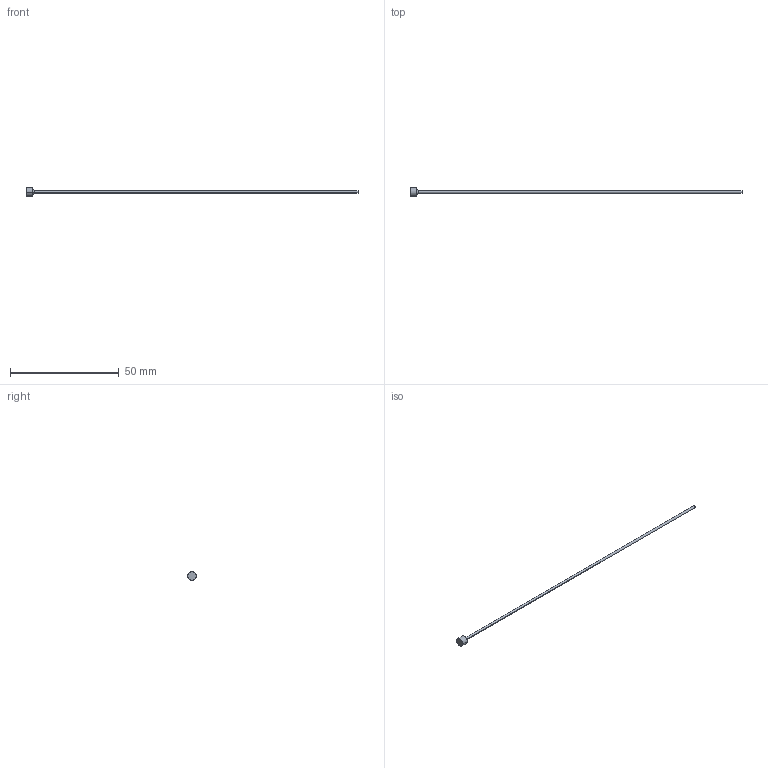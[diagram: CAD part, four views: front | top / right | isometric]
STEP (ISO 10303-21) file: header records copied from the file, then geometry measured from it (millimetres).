
FILE_DESCRIPTION (( 'STEP AP214' ), '1' );
FILE_NAME ('P4-6.STEP', '2020-03-11T13:37:01', ( '' ), ( '' ), 'SwSTEP 2.0', 'SolidWorks 2018', '' );
FILE_SCHEMA (( 'AUTOMOTIVE_DESIGN' ));
Length unit declared in the file: inch
Products named in the file (1): P4-6
Bounding box: 152.4 x 3.97 x 3.97 mm (x, y, z)
Volume: 203.8 mm3; surface area: 616.5 mm2
Topology: 1 solids, 1 shells, 13 faces, 24 edges, 14 vertices
Faces by surface type: cone 4, cylinder 4, plane 3, torus 2
Entity records: 366 total; most frequent: DIRECTION 68, CARTESIAN_POINT 52, ORIENTED_EDGE 48, AXIS2_PLACEMENT_3D 30, EDGE_CURVE 24, CIRCLE 16, VERTEX_POINT 14, EDGE_LOOP 14
